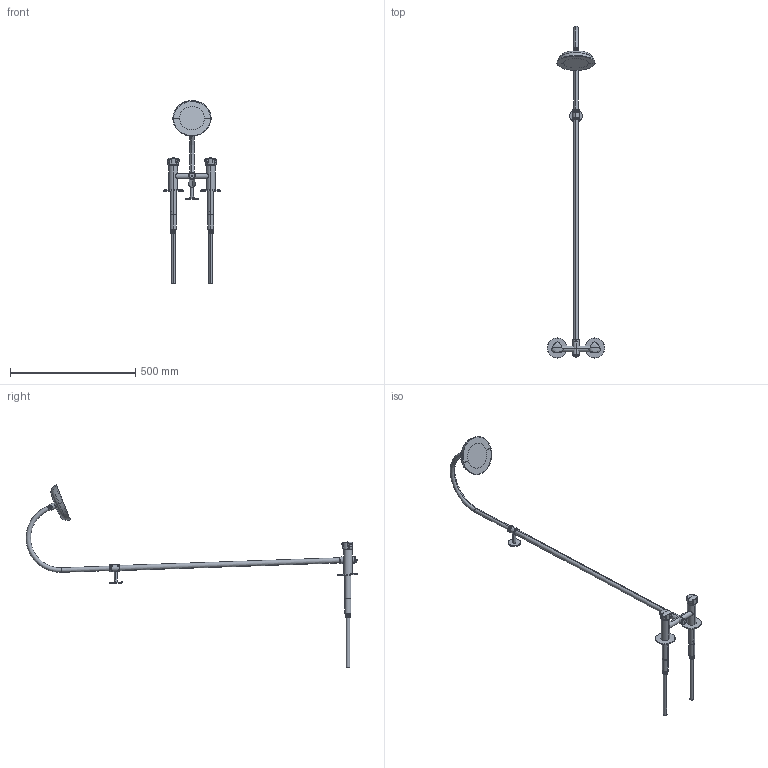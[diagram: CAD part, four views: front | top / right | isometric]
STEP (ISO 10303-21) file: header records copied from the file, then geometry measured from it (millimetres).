
FILE_DESCRIPTION((''),'2;1');
FILE_NAME('89781--25_SW0001','2026-09-09T13:22:12',('clra1'),(''),'CREO PARAMETRIC BY PTC INC, 2022244','CREO PARAMETRIC BY PTC INC, 2022244','');
FILE_SCHEMA(('CONFIG_CONTROL_DESIGN'));
Length unit declared in the file: millimetre
Products named in the file (1): 89781--25_SW0001
Bounding box: 230 x 1325.4 x 730.61 mm (x, y, z)
Surface area: 307618 mm2 (no closed solid volume)
Topology: 0 solids, 48 shells, 338 faces, 840 edges, 538 vertices
Faces by surface type: cylinder 100, bspline 89, cone 72, plane 43, torus 24, revolution 10
Entity records: 22870 total; most frequent: CARTESIAN_POINT 15692, ORIENTED_EDGE 1502, DIRECTION 1332, EDGE_CURVE 836, AXIS2_PLACEMENT_3D 567, VERTEX_POINT 538, EDGE_LOOP 338, FACE_OUTER_BOUND 338
